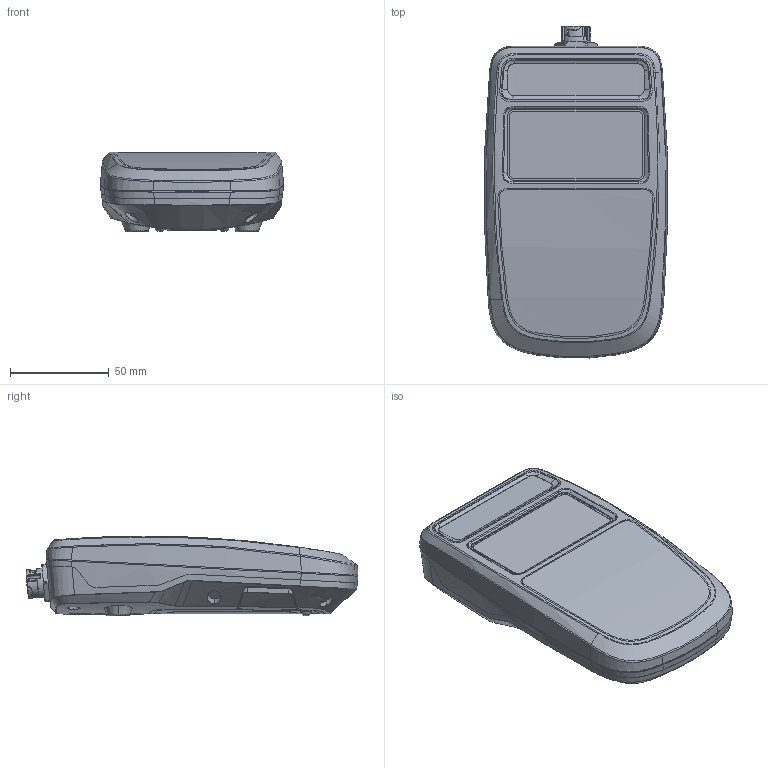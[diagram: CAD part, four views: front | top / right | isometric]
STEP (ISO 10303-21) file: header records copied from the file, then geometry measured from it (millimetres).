
FILE_DESCRIPTION (( 'STEP AP214' ), '1' );
FILE_NAME ('PSDS simple with connector.STEP', '2023-09-27T11:50:03', ( '' ), ( '' ), 'SwSTEP 2.0', 'SolidWorks 2023', '' );
FILE_SCHEMA (( 'AUTOMOTIVE_DESIGN' ));
Length unit declared in the file: millimetre
Products named in the file (3): binder; PSDS simple with connector; HY1232 - Combine tbl_defeature2
Assembly tree (2 placements, depth 2):
  PSDS simple with connector
    HY1232 - Combine tbl_defeature2
    binder
Bounding box: 92.66 x 168.05 x 40.33 mm (x, y, z)
Volume: 446832.9 mm3; surface area: 64563.5 mm2
Topology: 3 solids, 4 shells, 1597 faces, 4177 edges, 2634 vertices
Faces by surface type: bspline 559, plane 451, cylinder 334, cone 138, torus 94, sphere 21
Entity records: 90096 total; most frequent: CARTESIAN_POINT 47228, ORIENTED_EDGE 8326, DIRECTION 5770, EDGE_CURVE 4163, VERTEX_POINT 2632, AXIS2_PLACEMENT_3D 2120, EDGE_LOOP 1673, ADVANCED_FACE 1597
